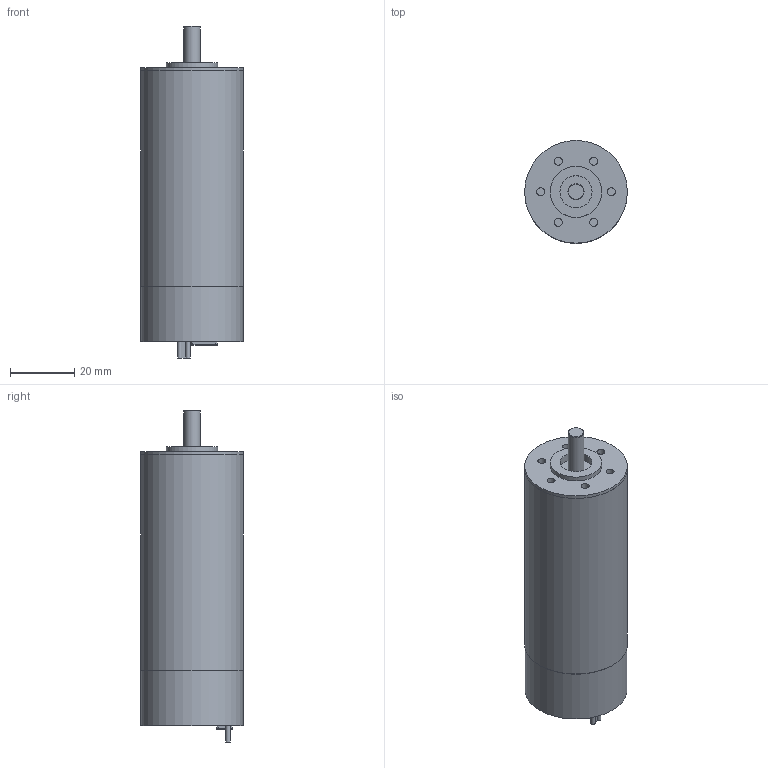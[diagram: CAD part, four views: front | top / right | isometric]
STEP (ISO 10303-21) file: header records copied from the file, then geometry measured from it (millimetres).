
FILE_DESCRIPTION(/* description */ (''),/* implementation_level */ '2;1');
FILE_NAME(/* name */ '3268.BX4_SCDC.stp',/* time_stamp */ '2012-10-31T08:59:17+01:00',/* author */ ('DR. FRITZ FAULHABER GmbH & Co. KG'),/* organization */ ('DR. FRITZ FAULHABER GmbH & Co. KG'),/* preprocessor_version */ 'ST-DEVELOPER v11',/* originating_system */ 'SIEMENS PLM Software NX 7.5',/* authorisation */ '');
FILE_SCHEMA (('AUTOMOTIVE_DESIGN { 1 0 10303 214 1 1 1 1 }'));
Length unit declared in the file: millimetre
Products named in the file (1): 3268.BX4_SCDC
Bounding box: 32 x 32 x 103.4 mm (x, y, z)
Volume: 68819 mm3; surface area: 10820.1 mm2
Topology: 1 solids, 1 shells, 52 faces, 98 edges, 63 vertices
Faces by surface type: cylinder 24, plane 23, torus 4, cone 1
Full cylindrical faces by diameter (mm): 2.5 x6, 5 x1, 10 x1, 16 x1, 31.05 x1, 31.8 x1, 31.99 x1, 32 x2
Entity records: 1258 total; most frequent: DIRECTION 240, CARTESIAN_POINT 195, ORIENTED_EDGE 162, AXIS2_PLACEMENT_3D 106, EDGE_LOOP 82, EDGE_CURVE 81, VERTEX_POINT 61, FACE_BOUND 53
